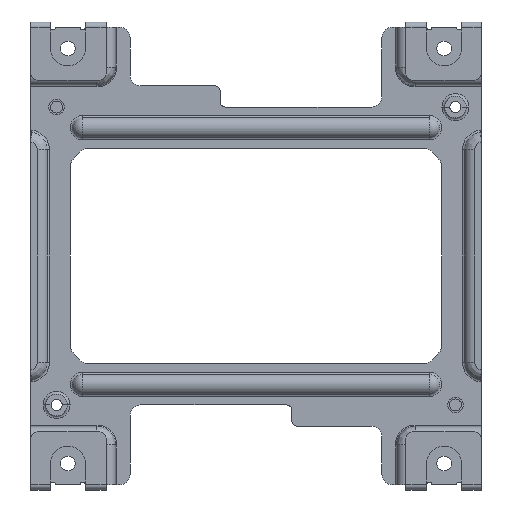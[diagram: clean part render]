
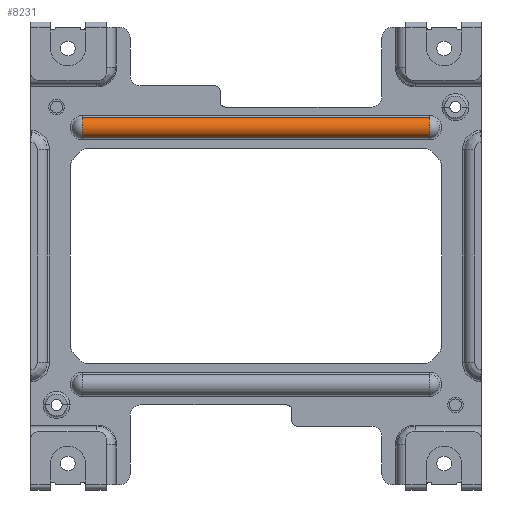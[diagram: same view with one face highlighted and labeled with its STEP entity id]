
A CAD part, front view. The second image highlights one B-rep face of the part: STEP entity #8231.
In plain terms, the highlighted cylindrical face has radius 4 mm (diameter 8 mm), a partial arc.
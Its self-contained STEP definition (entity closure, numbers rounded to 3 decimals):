
#1195=CARTESIAN_POINT('',(65.5,-1.5,41.5));
#1196=DIRECTION('',(1.,0.,0.));
#1197=DIRECTION('',(0.,-1.,0.));
#1198=AXIS2_PLACEMENT_3D('',#1195,#1196,#1197);
#1203=DIRECTION('',(1.,0.,0.));
#1204=VECTOR('',#1203,131.);
#1205=CARTESIAN_POINT('',(-65.5,-3.1,37.834));
#1206=LINE('',#1205,#1204);
#1210=CARTESIAN_POINT('',(-65.5,-1.5,41.5));
#1211=DIRECTION('',(1.,0.,0.));
#1212=DIRECTION('',(0.,-1.,0.));
#1213=AXIS2_PLACEMENT_3D('',#1210,#1211,#1212);
#1218=DIRECTION('',(-1.,0.,0.));
#1219=VECTOR('',#1218,131.);
#1220=CARTESIAN_POINT('',(65.5,-3.1,45.166));
#1221=LINE('',#1220,#1219);
#1225=CARTESIAN_POINT('',(65.5,-1.5,41.5));
#1226=DIRECTION('',(-1.,0.,0.));
#1227=DIRECTION('',(0.,-1.,0.));
#1228=AXIS2_PLACEMENT_3D('',#1225,#1226,#1227);
#1233=CARTESIAN_POINT('',(-65.5,-1.5,41.5));
#1234=DIRECTION('',(-1.,0.,0.));
#1235=DIRECTION('',(0.,-1.,0.));
#1236=AXIS2_PLACEMENT_3D('',#1233,#1234,#1235);
#6743=CARTESIAN_POINT('',(-65.5,-3.1,37.834));
#6744=CARTESIAN_POINT('',(65.5,-3.1,37.834));
#6745=VERTEX_POINT('',#6743);
#6746=VERTEX_POINT('',#6744);
#6747=CARTESIAN_POINT('',(65.5,-5.5,41.5));
#6748=CARTESIAN_POINT('',(65.5,-3.1,45.166));
#6749=VERTEX_POINT('',#6747);
#6750=VERTEX_POINT('',#6748);
#6751=CARTESIAN_POINT('',(-65.5,-5.5,41.5));
#6752=CARTESIAN_POINT('',(-65.5,-3.1,45.166));
#6753=VERTEX_POINT('',#6751);
#6754=VERTEX_POINT('',#6752);
#8216=CARTESIAN_POINT('',(65.518,-1.5,41.5));
#8217=DIRECTION('',(-1.,0.,0.));
#8218=DIRECTION('',(0.,-1.,0.));
#8219=AXIS2_PLACEMENT_3D('',#8216,#8217,#8218);
#8220=CYLINDRICAL_SURFACE('',#8219,4.);
#8221=ORIENTED_EDGE('',*,*,#8155,.F.);
#8223=ORIENTED_EDGE('',*,*,#8222,.F.);
#8225=ORIENTED_EDGE('',*,*,#8224,.T.);
#8226=ORIENTED_EDGE('',*,*,#8184,.F.);
#8227=ORIENTED_EDGE('',*,*,#8208,.F.);
#8228=ORIENTED_EDGE('',*,*,#8211,.T.);
#8229=EDGE_LOOP('',(#8221,#8223,#8225,#8226,#8227,#8228));
#8230=FACE_OUTER_BOUND('',#8229,.F.);
#1199=CIRCLE('',#1198,4.);
#1214=CIRCLE('',#1213,4.);
#1229=CIRCLE('',#1228,4.);
#1237=CIRCLE('',#1236,4.);
#8155=EDGE_CURVE('',#6745,#6746,#1206,.T.);
#8184=EDGE_CURVE('',#6750,#6754,#1221,.T.);
#8208=EDGE_CURVE('',#6749,#6750,#1229,.T.);
#8211=EDGE_CURVE('',#6749,#6746,#1199,.T.);
#8222=EDGE_CURVE('',#6753,#6745,#1214,.T.);
#8224=EDGE_CURVE('',#6753,#6754,#1237,.T.);
#8231=ADVANCED_FACE('',(#8230),#8220,.T.);
